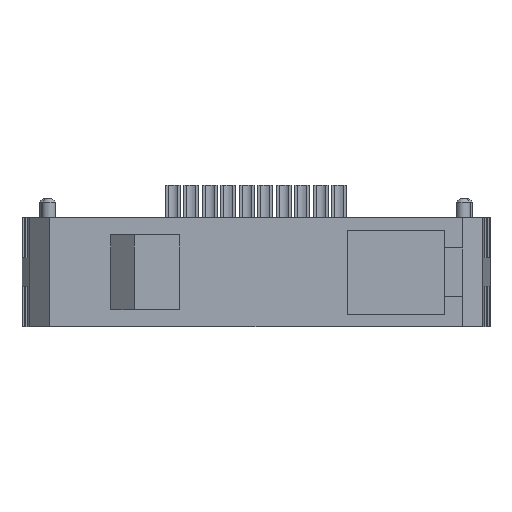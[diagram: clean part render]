
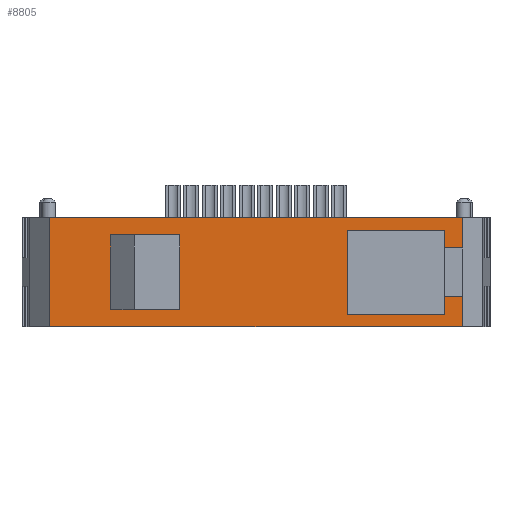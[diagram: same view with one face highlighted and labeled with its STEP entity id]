
A CAD part, front view. The second image highlights one B-rep face of the part: STEP entity #8805.
In plain terms, the highlighted planar face has unit normal (0, -1, 0).
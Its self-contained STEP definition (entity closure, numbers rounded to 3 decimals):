
#8805=ADVANCED_FACE('',(#10865,#10866,#10867),#9875,.F.);
#9875=PLANE('',#27366);
#10865=FACE_BOUND('',#11141,.T.);
#10866=FACE_BOUND('',#11142,.T.);
#10867=FACE_BOUND('',#11143,.T.);
#11141=EDGE_LOOP('',(#12823,#12824,#12825,#12826));
#11142=EDGE_LOOP('',(#12827,#12828,#12829,#12830));
#11143=EDGE_LOOP('',(#12831,#12832,#12833,#12834));
#12823=ORIENTED_EDGE('',*,*,#20024,.F.);
#12824=ORIENTED_EDGE('',*,*,#20025,.F.);
#12825=ORIENTED_EDGE('',*,*,#19966,.F.);
#12826=ORIENTED_EDGE('',*,*,#20026,.T.);
#12827=ORIENTED_EDGE('',*,*,#20027,.T.);
#12828=ORIENTED_EDGE('',*,*,#20028,.T.);
#12829=ORIENTED_EDGE('',*,*,#20029,.T.);
#12830=ORIENTED_EDGE('',*,*,#19883,.F.);
#12831=ORIENTED_EDGE('',*,*,#20030,.F.);
#12832=ORIENTED_EDGE('',*,*,#20031,.T.);
#12833=ORIENTED_EDGE('',*,*,#20032,.T.);
#12834=ORIENTED_EDGE('',*,*,#20033,.T.);
#18052=VERTEX_POINT('',#34301);
#18053=VERTEX_POINT('',#34303);
#18129=VERTEX_POINT('',#34464);
#18130=VERTEX_POINT('',#34466);
#18187=VERTEX_POINT('',#34582);
#18188=VERTEX_POINT('',#34583);
#18189=VERTEX_POINT('',#34587);
#18190=VERTEX_POINT('',#34589);
#18191=VERTEX_POINT('',#34592);
#18192=VERTEX_POINT('',#34593);
#18193=VERTEX_POINT('',#34595);
#18194=VERTEX_POINT('',#34597);
#19883=EDGE_CURVE('',#18052,#18053,#22586,.T.);
#19966=EDGE_CURVE('',#18129,#18130,#22664,.T.);
#20024=EDGE_CURVE('',#18187,#18188,#22721,.T.);
#20025=EDGE_CURVE('',#18130,#18187,#22722,.T.);
#20026=EDGE_CURVE('',#18129,#18188,#22723,.T.);
#20027=EDGE_CURVE('',#18052,#18189,#22724,.T.);
#20028=EDGE_CURVE('',#18189,#18190,#22725,.T.);
#20029=EDGE_CURVE('',#18190,#18053,#22726,.T.);
#20030=EDGE_CURVE('',#18191,#18192,#22727,.T.);
#20031=EDGE_CURVE('',#18191,#18193,#22728,.T.);
#20032=EDGE_CURVE('',#18193,#18194,#22729,.T.);
#20033=EDGE_CURVE('',#18194,#18192,#22730,.T.);
#22586=LINE('',#34302,#25114);
#22664=LINE('',#34465,#25192);
#22721=LINE('',#34581,#25249);
#22722=LINE('',#34584,#25250);
#22723=LINE('',#34585,#25251);
#22724=LINE('',#34586,#25252);
#22725=LINE('',#34588,#25253);
#22726=LINE('',#34590,#25254);
#22727=LINE('',#34591,#25255);
#22728=LINE('',#34594,#25256);
#22729=LINE('',#34596,#25257);
#22730=LINE('',#34598,#25258);
#25114=VECTOR('',#28983,1.);
#25192=VECTOR('',#29077,1.);
#25249=VECTOR('',#29138,1.);
#25250=VECTOR('',#29139,1.);
#25251=VECTOR('',#29140,1.);
#25252=VECTOR('',#29141,1.);
#25253=VECTOR('',#29142,1.);
#25254=VECTOR('',#29143,1.);
#25255=VECTOR('',#29144,1.);
#25256=VECTOR('',#29145,1.);
#25257=VECTOR('',#29146,1.);
#25258=VECTOR('',#29147,1.);
#27366=AXIS2_PLACEMENT_3D('',#34599,#29148,#29149);
#28983=DIRECTION('',(0.,0.,1.));
#29077=DIRECTION('',(1.,0.,0.));
#29138=DIRECTION('',(-1.,0.,0.));
#29139=DIRECTION('',(0.,0.,-1.));
#29140=DIRECTION('',(0.,0.,-1.));
#29141=DIRECTION('',(-1.,0.,0.));
#29142=DIRECTION('',(0.,0.,1.));
#29143=DIRECTION('',(1.,0.,0.));
#29144=DIRECTION('',(0.,0.,1.));
#29145=DIRECTION('',(-1.,0.,0.));
#29146=DIRECTION('',(0.,0.,1.));
#29147=DIRECTION('',(1.,0.,0.));
#29148=DIRECTION('',(0.,1.,0.));
#29149=DIRECTION('',(0.,0.,1.));
#34301=CARTESIAN_POINT('',(38.8,0.,-8.7));
#34302=CARTESIAN_POINT('',(38.8,0.,-100.125));
#34303=CARTESIAN_POINT('',(38.8,0.,8.7));
#34464=CARTESIAN_POINT('',(-42.5,0.,11.25));
#34465=CARTESIAN_POINT('',(-42.5,0.,11.25));
#34466=CARTESIAN_POINT('',(42.5,0.,11.25));
#34581=CARTESIAN_POINT('',(-42.5,0.,-11.25));
#34582=CARTESIAN_POINT('',(42.5,0.,-11.25));
#34583=CARTESIAN_POINT('',(-42.5,0.,-11.25));
#34584=CARTESIAN_POINT('',(42.5,0.,11.25));
#34585=CARTESIAN_POINT('',(-42.5,0.,11.25));
#34586=CARTESIAN_POINT('',(18.8,0.,-8.7));
#34587=CARTESIAN_POINT('',(18.8,0.,-8.7));
#34588=CARTESIAN_POINT('',(18.8,0.,-100.125));
#34589=CARTESIAN_POINT('',(18.8,0.,8.7));
#34590=CARTESIAN_POINT('',(18.8,0.,8.7));
#34591=CARTESIAN_POINT('',(-17.75,0.,0.));
#34592=CARTESIAN_POINT('',(-17.75,0.,-7.7));
#34593=CARTESIAN_POINT('',(-17.75,0.,7.7));
#34594=CARTESIAN_POINT('',(-29.95,0.,-7.7));
#34595=CARTESIAN_POINT('',(-29.95,0.,-7.7));
#34596=CARTESIAN_POINT('',(-29.95,0.,0.));
#34597=CARTESIAN_POINT('',(-29.95,0.,7.7));
#34598=CARTESIAN_POINT('',(-29.95,0.,7.7));
#34599=CARTESIAN_POINT('',(-42.5,0.,11.25));
